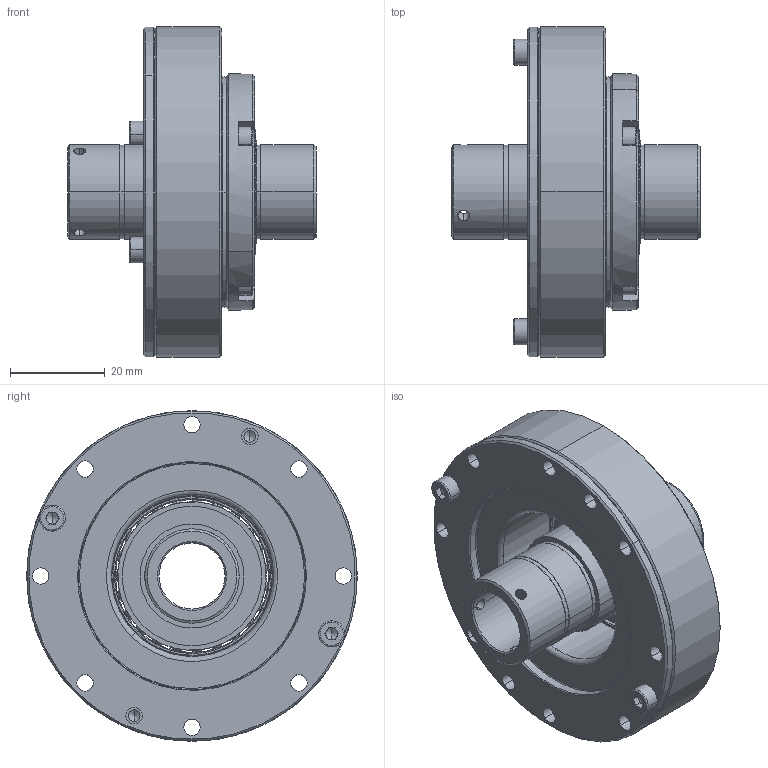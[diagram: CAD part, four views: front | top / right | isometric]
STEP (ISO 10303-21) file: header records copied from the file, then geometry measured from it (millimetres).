
FILE_DESCRIPTION (( 'STEP AP203' ), '1' );
FILE_NAME ('LHSG-14-XXX-C-III-ST.step', '2025-01-07T06:46:59', ( '' ), ( '' ), 'SwSTEP 2.0', 'SolidWorks 2023', '' );
FILE_SCHEMA (( 'CONFIG_CONTROL_DESIGN' ));
Length unit declared in the file: metre
Products named in the file (1): LHSG-14-XXX-C-III-ST
Bounding box: 52.5 x 70 x 70 mm (x, y, z)
Volume: 56856.2 mm3; surface area: 50528.5 mm2
Topology: 39 solids, 39 shells, 695 faces, 1804 edges, 1103 vertices
Faces by surface type: cylinder 294, plane 194, cone 105, bspline 102
Entity records: 23673 total; most frequent: CARTESIAN_POINT 6833, DIRECTION 3765, ORIENTED_EDGE 3336, EDGE_CURVE 1668, AXIS2_PLACEMENT_3D 1575, VERTEX_POINT 1103, CIRCLE 981, EDGE_LOOP 845
